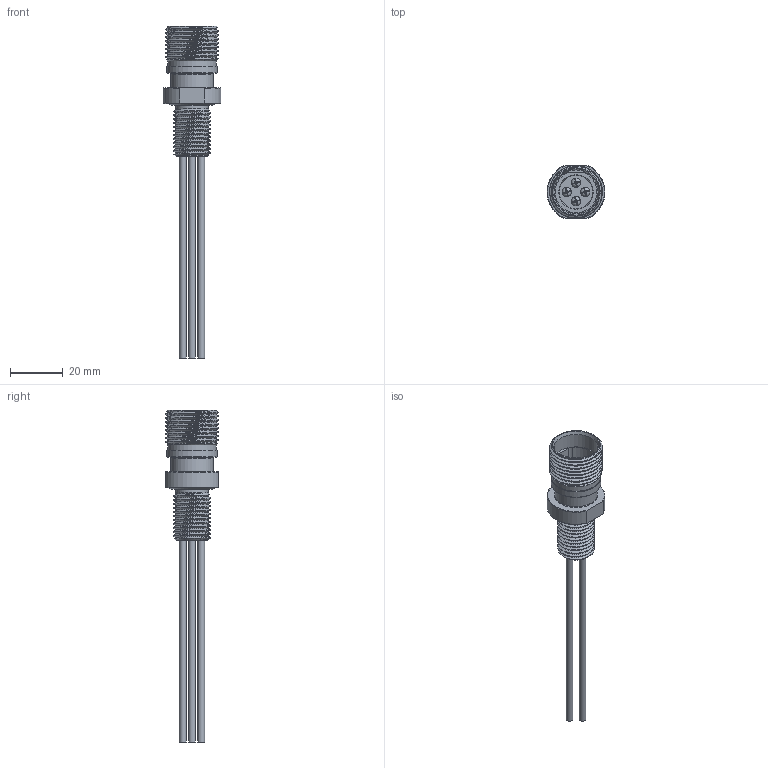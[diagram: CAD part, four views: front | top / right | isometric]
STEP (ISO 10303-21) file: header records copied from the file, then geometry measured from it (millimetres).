
FILE_DESCRIPTION (( 'STEP AP203' ), '1' );
FILE_NAME ('C14-1140 Cobalt 14 Bulkhead 4 Pin.STEP', '2022-11-15T21:48:16', ( '' ), ( '' ), 'SwSTEP 2.0', 'SolidWorks 2022', '' );
FILE_SCHEMA (( 'CONFIG_CONTROL_DESIGN' ));
Length unit declared in the file: millimetre
Products named in the file (1): C14-1140 Cobalt 14 Bulkhead 4 Pin
Bounding box: 22 x 20 x 126 mm (x, y, z)
Volume: 9485.1 mm3; surface area: 8711.3 mm2
Topology: 2 solids, 2 shells, 158 faces, 373 edges, 235 vertices
Faces by surface type: plane 71, cone 34, cylinder 25, torus 22, bspline 6
Full cylindrical faces by diameter (mm): 2.616 x4, 3.25 x4, 10.668 x1, 12.2 x1, 12.7 x1, 14.8 x1, 16 x1, 16.44 x1, 16.7 x1, 18.3 x1, 19 x1, 19.2 x1
Entity records: 10684 total; most frequent: CARTESIAN_POINT 7399, DIRECTION 647, ORIENTED_EDGE 628, EDGE_CURVE 314, AXIS2_PLACEMENT_3D 277, VERTEX_POINT 214, EDGE_LOOP 208, FACE_OUTER_BOUND 178
